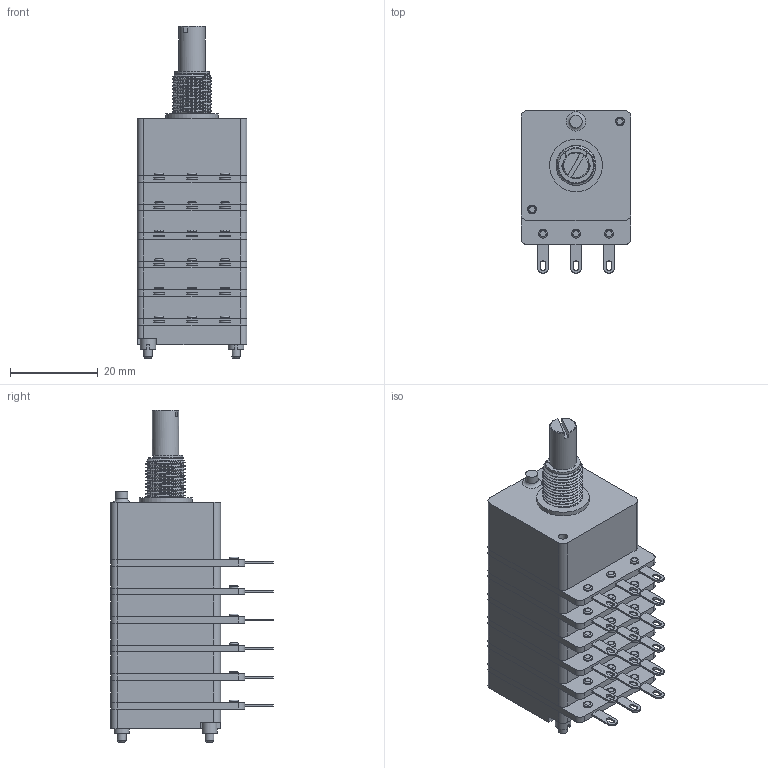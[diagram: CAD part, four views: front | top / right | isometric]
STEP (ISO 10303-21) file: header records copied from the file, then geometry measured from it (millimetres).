
FILE_DESCRIPTION(('FreeCAD Model'),'2;1');
FILE_NAME('Open CASCADE Shape Model','2024-02-27T11:20:55',(''),(''), 'Open CASCADE STEP processor 7.6','FreeCAD','Unknown');
FILE_SCHEMA(('AUTOMOTIVE_DESIGN { 1 0 10303 214 1 1 1 1 }'));
Length unit declared in the file: millimetre
Products named in the file (1): 6cp25xx-s20
Bounding box: 25 x 37 x 75.5 mm (x, y, z)
Volume: 34031.4 mm3; surface area: 11053.7 mm2
Topology: 1 solids, 31 shells, 613 faces, 1341 edges, 842 vertices
Faces by surface type: plane 316, cylinder 231, bspline 38, torus 22, cone 6
Full cylindrical faces by diameter (mm): 1.9 x2, 2 x46, 2.2 x22, 2.8 x1, 3.5 x2, 4.5 x6, 5.4 x1, 6 x1, 6.05 x1, 8 x1, 9.09 x11, 12 x1
Entity records: 44690 total; most frequent: CARTESIAN_POINT 16299, DIRECTION 4782, ORIENTED_EDGE 2680, PCURVE 2680, DEFINITIONAL_REPRESENTATION 2680, LINE 2392, VECTOR 2392, EDGE_CURVE 1340
